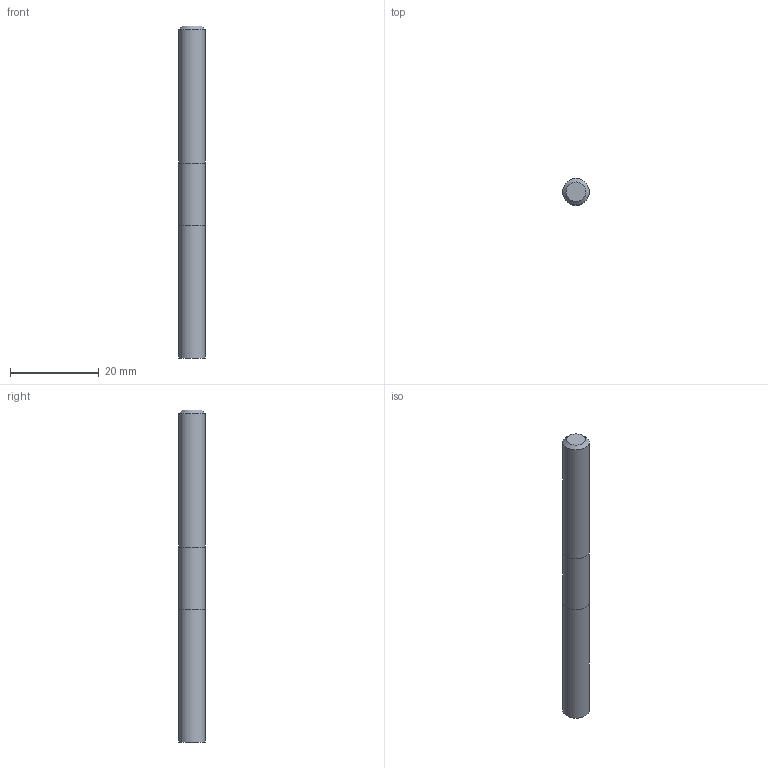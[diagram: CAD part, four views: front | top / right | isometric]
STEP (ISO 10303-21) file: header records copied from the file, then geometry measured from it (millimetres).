
FILE_DESCRIPTION((''),'2;1');
FILE_NAME('C:\Users\nsx150\AppData\Local\Temp\Mastercam 2021\AMKO7YXE3Q\TEMP.step','2024-03-15T17:56:32',(''),(''),'STEP Write','Mastercam 2021 ... CNC Software, Inc.','');
FILE_SCHEMA(('AUTOMOTIVE_DESIGN'));
Length unit declared in the file: millimetre
Products named in the file (1): None
Bounding box: 6 x 6 x 75 mm (x, y, z)
Volume: 2115.1 mm3; surface area: 1517.1 mm2
Topology: 2 solids, 2 shells, 8 faces, 10 edges, 6 vertices
Faces by surface type: plane 4, cylinder 3, cone 1
Full cylindrical faces by diameter (mm): 6 x3
Entity records: 190 total; most frequent: DIRECTION 32, CARTESIAN_POINT 22, AXIS2_PLACEMENT_3D 16, ORIENTED_EDGE 12, EDGE_LOOP 12, STYLED_ITEM 11, ADVANCED_FACE 8, FACE_BOUND 7
